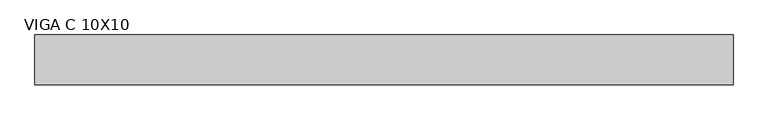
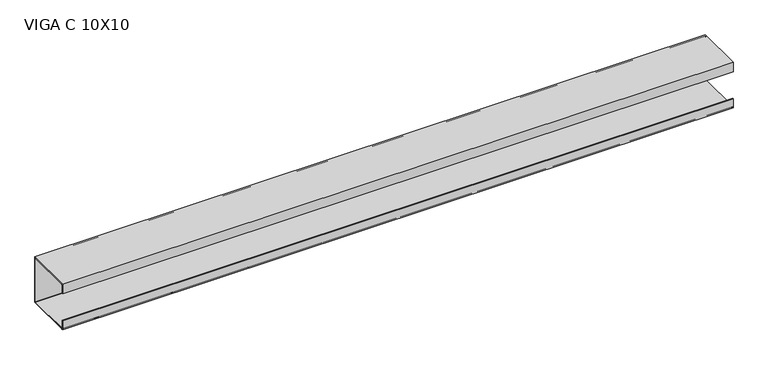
"""IFC4 building model written with IfcOpenShell, lengths in millimetres: beam geometry, VIGA PERFIL C AÇO : VIGA C 10X10."""

from ifc_helpers import new_model, si_unit, point, frame, frame_2d, origin, place, context, project, spatial, polyline, circle_curve, trimmed, segment, composite_curve, outline, extrude, source, transform, mapped, element, save


def viga_c_10x10_5042731d(model_context):
    return source(origin(), model_context, "Body", "SweptSolid", [
        extrude(outline(polyline([(9.2, -50.0), (-90.8, -50.0), (-90.8, -30.0), (-88.9, -30.0), (-88.9, -48.1), (7.3, -48.1), (7.3, 48.1), (-88.9, 48.1), (-88.9, 30.0), (-90.8, 30.0), (-90.8, 50.0), (9.2, 50.0), (9.2, -50.0)])), frame((-705.5, 0.0, 0.0), z_axis=(1.0, 0.0, 0.0), x_axis=(0.0, 1.0, 0.0)), (0.0, 0.0, 1.0), 1396.0),
        extrude(outline(composite_curve([segment(trimmed(circle_curve(frame_2d((5.4, -46.2)), 3.8), [point((9.2, -46.2))], [point((5.4, -50.0))], False, "CARTESIAN"), True, "CONTINUOUS"), segment(polyline([(5.4, -50.0), (-87.0, -50.0)]), True, "CONTINUOUS"), segment(trimmed(circle_curve(frame_2d((-87.0, -46.2)), 3.8), [point((-87.0, -50.0))], [point((-90.8, -46.2))], False, "CARTESIAN"), True, "CONTINUOUS"), segment(polyline([(-90.8, -46.2), (-90.8, -30.0), (-88.9, -30.0), (-88.9, -46.2)]), True, "CONTINUOUS"), segment(trimmed(circle_curve(frame_2d((-87.0, -46.2)), 1.9), [point((-88.9, -46.2))], [point((-87.0, -48.1))], True, "CARTESIAN"), True, "CONTINUOUS"), segment(polyline([(-87.0, -48.1), (5.4, -48.1)]), True, "CONTINUOUS"), segment(trimmed(circle_curve(frame_2d((5.4, -46.2)), 1.9), [point((5.4, -48.1))], [point((7.3, -46.2))], True, "CARTESIAN"), True, "CONTINUOUS"), segment(polyline([(7.3, -46.2), (7.3, 46.2)]), True, "CONTINUOUS"), segment(trimmed(circle_curve(frame_2d((5.4, 46.2)), 1.9), [point((7.3, 46.2))], [point((5.4, 48.1))], True, "CARTESIAN"), True, "CONTINUOUS"), segment(polyline([(5.4, 48.1), (-87.0, 48.1)]), True, "CONTINUOUS"), segment(trimmed(circle_curve(frame_2d((-87.0, 46.2)), 1.9), [point((-87.0, 48.1))], [point((-88.9, 46.2))], True, "CARTESIAN"), True, "CONTINUOUS"), segment(polyline([(-88.9, 46.2), (-88.9, 30.0), (-90.8, 30.0), (-90.8, 46.2)]), True, "CONTINUOUS"), segment(trimmed(circle_curve(frame_2d((-87.0, 46.2)), 3.8), [point((-90.8, 46.2))], [point((-87.0, 50.0))], False, "CARTESIAN"), True, "CONTINUOUS"), segment(polyline([(-87.0, 50.0), (5.4, 50.0)]), True, "CONTINUOUS"), segment(trimmed(circle_curve(frame_2d((5.4, 46.2)), 3.8), [point((5.4, 50.0))], [point((9.2, 46.2))], False, "CARTESIAN"), True, "CONTINUOUS"), segment(polyline([(9.2, 46.2), (9.2, -46.2)]), True, "CONTINUOUS")], self_intersect=False)), frame((-705.5, 0.0, 0.0), z_axis=(1.0, 0.0, 0.0), x_axis=(0.0, 1.0, 0.0)), (0.0, 0.0, 1.0), 1396.0),
    ])


if __name__ == "__main__":
    model = new_model("IFC4")
    model_context = context("Model", 3, world=origin())
    ifc_project = project(units=[si_unit("LENGTHUNIT", "METRE", prefix="MILLI")], contexts=[model_context])
    site = spatial("IfcSite", under=ifc_project)
    building = spatial("IfcBuilding", under=site)
    placement = place(None, origin())
    viga_c_10x10_shape = viga_c_10x10_5042731d(model_context)
    element("IfcBeam", 1, ObjectType="VIGA PERFIL C AÇO : VIGA C 10X10", at=placement, inside=building, context=model_context, shape_type="MappedRepresentation", body=[
        mapped(viga_c_10x10_shape, transform((0.0, 0.0, 0.0), x_axis=(1.0, 0.0, 0.0), y_axis=(0.0, 1.0, 0.0), z_axis=(0.0, 0.0, 1.0))),
    ])
    save(model, "model.ifc")
